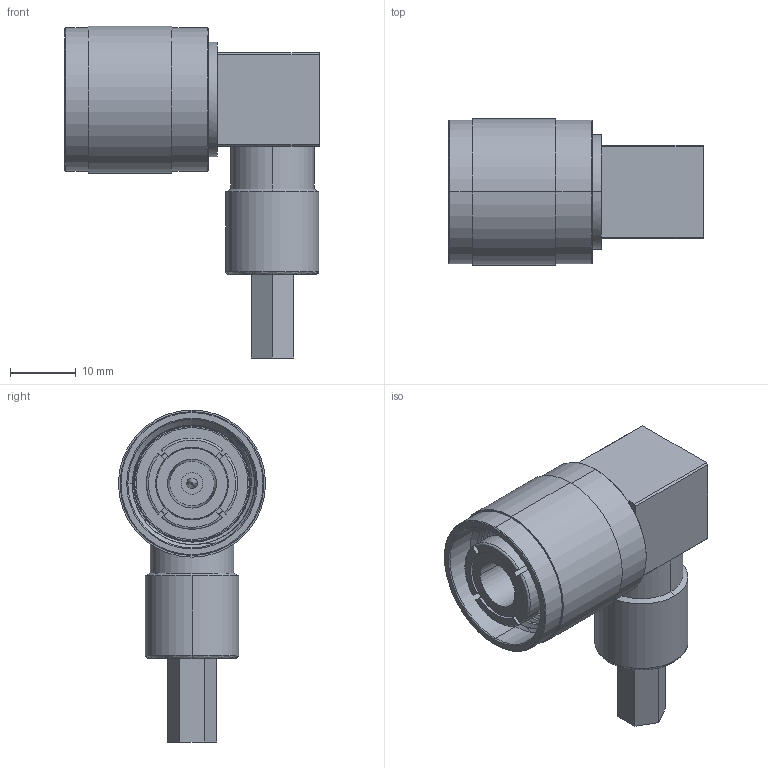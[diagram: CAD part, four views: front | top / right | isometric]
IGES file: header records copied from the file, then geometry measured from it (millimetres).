
Start section:  PTC IGES file: chr922.igs
Global section: file name: chr922.igs; native system: Creo Parametric by PTC Inc.; preprocessor: 2019080; author: scott.shaffer; organization: Unknown; date: 20220523.130515; units: millimetre
Bounding box: 38.73 x 22.4 x 50.55 mm (x, y, z)
Surface area: 7328.3 mm2 (no closed solid volume)
Topology: 0 solids, 0 shells, 163 faces, 846 edges, 846 vertices
Faces by surface type: revolution 106, bspline 57
